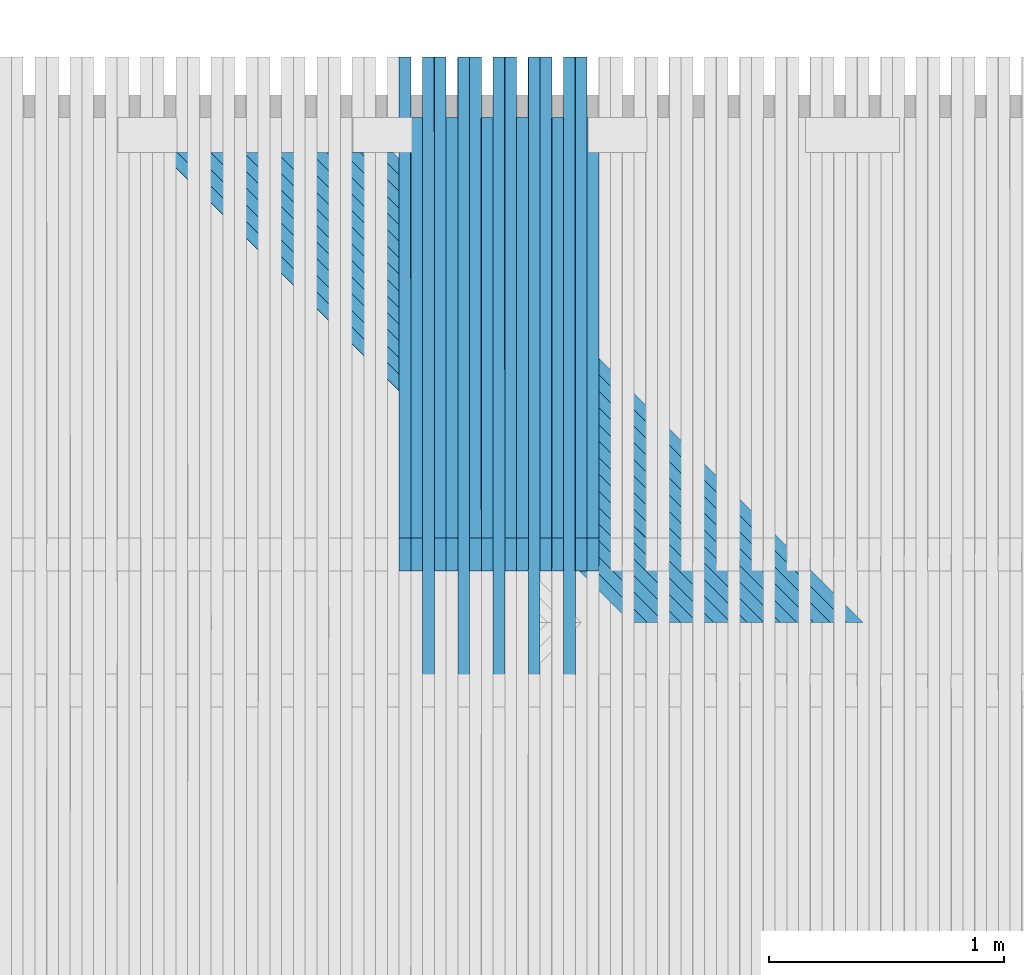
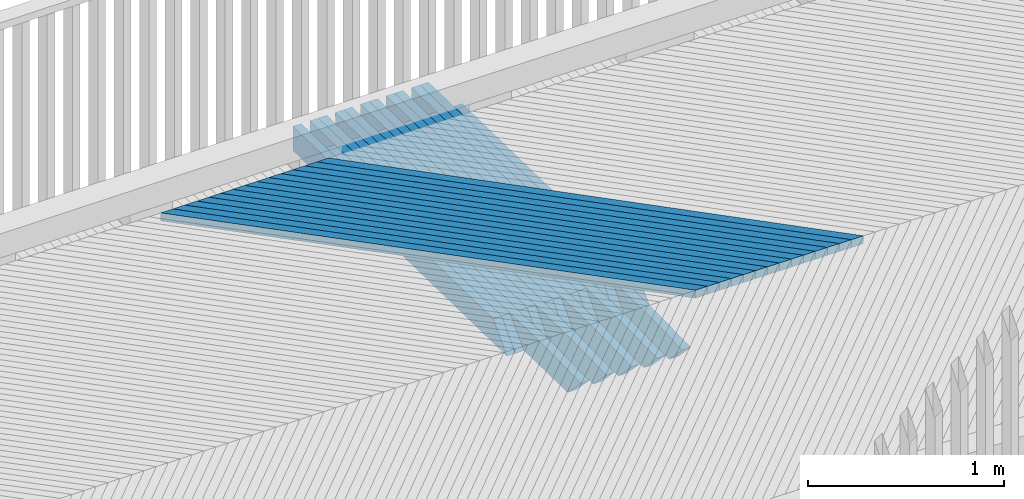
# One storey, part 34 of 47: 31 beams.
"""IFC2X3 building model written with IfcOpenShell, lengths in millimetres."""

from ifc_helpers import new_model, si_unit, frame, origin_with_axes, place, context, subcontext, project, spatial, faceted_brep, material, type_object, element, save


model = new_model("IFC2X3")

# Units and contexts
model_context = context("Model", 3, precision=1e-05, world=origin_with_axes())
body_context = subcontext(model_context, "Body", "Model", "MODEL_VIEW")
ifc_project = project(units=[si_unit("LENGTHUNIT", "METRE", prefix="MILLI"), si_unit("AREAUNIT", "SQUARE_METRE"), si_unit("VOLUMEUNIT", "CUBIC_METRE"), si_unit("MASSUNIT", "GRAM", prefix="KILO"), si_unit("TIMEUNIT", "SECOND"), si_unit("PLANEANGLEUNIT", "RADIAN"), si_unit("SOLIDANGLEUNIT", "STERADIAN"), si_unit("THERMODYNAMICTEMPERATUREUNIT", "DEGREE_CELSIUS"), si_unit("LUMINOUSINTENSITYUNIT", "LUMEN")], contexts=[model_context])

# Site, building, storey
site_placement = place(None, origin_with_axes())
site = spatial("IfcSite", under=ifc_project, at=site_placement, Name="Undefined", CompositionType="ELEMENT")
building_placement = place(site_placement, origin_with_axes())
building = spatial("IfcBuilding", under=site, at=building_placement, Name="Undefined", CompositionType="ELEMENT")
storey_placement = place(building_placement, origin_with_axes())
storey = spatial("IfcBuildingStorey", under=building, at=storey_placement, Name="Undefined", CompositionType="ELEMENT", Elevation=0.0)

# Beams
ifc_material = material(Name="TIMBER/Timber_Undefined")
beam_type_1 = type_object("IfcBeamType", Name="150*50", PredefinedType="NOTDEFINED")
beam_1_placement = place(storey_placement, frame((11900.5198427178, 64513.4953923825, 3080.51070701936), z_axis=(0.00648046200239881, 0.0199960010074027, 0.999779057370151), x_axis=(0.000129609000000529, -0.999800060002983, 0.0199955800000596)))
element("IfcBeam", 1, at=beam_1_placement, inside=storey, type_object=beam_type_1, material=ifc_material, Name="BEAM", ObjectType="150*50", context=body_context, shape_type="Brep", body=[
    faceted_brep([(6.18456397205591e-09, -24.9999999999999, -75.0000000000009), (-6.1918399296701e-09, -24.9999999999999, 74.9999999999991), (-6.19911588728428e-09, 25.0, 75.0), (6.18456397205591e-09, 24.9999999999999, -75.0), (1789.96936586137, 25.0, 75.0000000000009), (1928.42646506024, 25.0, -75.0), (1928.4264649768, -24.9999999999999, -75.0), (1789.96936577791, -24.9999999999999, 75.0)], [[[0, 1, 2, 3]], [[3, 2, 4, 5]], [[0, 3, 5, 6]], [[1, 0, 6, 7]], [[2, 1, 7, 4]], [[7, 6, 5, 4]]]),
])
beam_2_placement = place(storey_placement, frame((11850.582909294, 64771.4438078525, 3075.67314184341), z_axis=(0.00639810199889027, 0.0199960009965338, 0.999779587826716), x_axis=(0.000127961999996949, -0.999800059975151, 0.0199955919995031)))
element("IfcBeam", 2, at=beam_2_placement, inside=storey, type_object=beam_type_1, material=ifc_material, Name="BEAM", ObjectType="150*50", context=body_context, shape_type="Brep", body=[
    faceted_brep([(6.18456397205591e-09, -24.9999999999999, -75.0000000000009), (-6.1918399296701e-09, -24.9999999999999, 74.9999999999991), (-6.19911588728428e-09, 25.0, 75.0), (6.18456397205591e-09, 24.9999999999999, -75.0), (2047.96935975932, 25.0, 75.0), (2186.42645864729, 25.0, -75.0), (2186.42645915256, -25.0000000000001, -75.0), (2047.96936034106, -25.0000000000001, 75.0)], [[[0, 1, 2, 3]], [[3, 2, 4, 5]], [[0, 3, 5, 6]], [[1, 0, 6, 7]], [[2, 1, 7, 4]], [[7, 6, 5, 4]]]),
])
beam_3_placement = place(storey_placement, frame((11800.5445021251, 64771.443807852, 3075.99248001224), z_axis=(0.00623128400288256, 0.0199960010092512, 0.999780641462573), x_axis=(0.000124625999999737, -0.999800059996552, 0.019995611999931)))
element("IfcBeam", 3, at=beam_3_placement, inside=storey, type_object=beam_type_1, material=ifc_material, Name="BEAM", ObjectType="150*50", context=body_context, shape_type="Brep", body=[
    faceted_brep([(6.18456397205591e-09, -24.9999999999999, -75.0000000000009), (6.18456397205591e-09, 24.9999999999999, -75.0), (2633.00494983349, 25.0000000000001, -75.0000000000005), (2633.00495050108, -24.9999999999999, -75.0000000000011), (-6.1918399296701e-09, -24.9999999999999, 74.9999999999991), (-6.19911588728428e-09, 25.0, 75.0), (2408.42501428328, 25.0000000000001, 74.9999999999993), (2768.5924870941, 25.0, 60.5875375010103), (2768.59248707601, -25.0, 60.5875366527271), (2408.42499905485, -25.0, 74.9999999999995)], [[[0, 1, 2, 3]], [[0, 4, 5, 1]], [[2, 1, 5, 6, 7]], [[3, 2, 7, 8]], [[4, 0, 3, 8, 9]], [[5, 4, 9, 6]], [[6, 9, 8, 7]]]),
])
beam_4_placement = place(storey_placement, frame((11750.4928224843, 64513.4953923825, 3081.46414950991), z_axis=(0.00623128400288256, 0.0199960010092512, 0.999780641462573), x_axis=(0.000124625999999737, -0.999800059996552, 0.019995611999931)))
element("IfcBeam", 4, at=beam_4_placement, inside=storey, type_object=beam_type_1, material=ifc_material, Name="BEAM", ObjectType="150*50", context=body_context, shape_type="Brep", body=[
    faceted_brep([(6.18456397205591e-09, -24.9999999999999, -75.0000000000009), (-6.1918399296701e-09, -24.9999999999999, 74.9999999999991), (-6.19911588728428e-09, 25.0, 75.0), (6.18456397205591e-09, 24.9999999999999, -75.0), (1789.96936586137, 25.0, 75.0000000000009), (1928.42646506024, 25.0, -75.0), (1928.4264649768, -24.9999999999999, -75.0), (1789.96936577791, -24.9999999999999, 75.0)], [[[0, 1, 2, 3]], [[3, 2, 4, 5]], [[0, 3, 5, 6]], [[1, 0, 6, 7]], [[2, 1, 7, 4]], [[7, 6, 5, 4]]]),
])
beam_5_placement = place(storey_placement, frame((11700.5570962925, 64771.4438078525, 3076.61413855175), z_axis=(0.00614892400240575, 0.0199960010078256, 0.999781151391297), x_axis=(0.00012297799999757, -0.999800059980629, 0.0199956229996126)))
element("IfcBeam", 5, at=beam_5_placement, inside=storey, type_object=beam_type_1, material=ifc_material, Name="BEAM", ObjectType="150*50", context=body_context, shape_type="Brep", body=[
    faceted_brep([(6.18456397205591e-09, -24.9999999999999, -75.0000000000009), (-6.1918399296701e-09, -24.9999999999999, 74.9999999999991), (-6.19911588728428e-09, 25.0, 75.0), (6.18456397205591e-09, 24.9999999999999, -75.0), (2047.96935975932, 25.0, 75.0), (2186.42645864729, 25.0, -75.0), (2186.42645915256, -25.0000000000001, -75.0), (2047.96936034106, -25.0000000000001, 75.0)], [[[0, 1, 2, 3]], [[3, 2, 4, 5]], [[0, 3, 5, 6]], [[1, 0, 6, 7]], [[2, 1, 7, 4]], [[7, 6, 5, 4]]]),
])
beam_6_placement = place(storey_placement, frame((11650.5186110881, 64771.443807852, 3076.92100548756), z_axis=(0.005982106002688, 0.0199960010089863, 0.999782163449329), x_axis=(0.00011964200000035, -0.999800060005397, 0.0199956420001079)))
element("IfcBeam", 6, at=beam_6_placement, inside=storey, type_object=beam_type_1, material=ifc_material, Name="BEAM", ObjectType="150*50", context=body_context, shape_type="Brep", body=[
    faceted_brep([(6.18456397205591e-09, -24.9999999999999, -75.0000000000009), (6.18456397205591e-09, 24.9999999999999, -75.0), (2633.00494983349, 25.0000000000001, -75.0000000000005), (2633.00495050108, -24.9999999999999, -75.0000000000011), (-6.1918399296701e-09, -24.9999999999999, 74.9999999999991), (-6.19911588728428e-09, 25.0, 75.0), (2408.42506497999, 24.9999999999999, 75.0), (2768.5924870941, 25.0, 60.5875375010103), (2768.59248707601, -25.0, 60.5875366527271), (2408.4250638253, -25.0, 74.9999999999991)], [[[0, 1, 2, 3]], [[0, 4, 5, 1]], [[2, 1, 5, 6, 7]], [[3, 2, 7, 8]], [[4, 0, 3, 8, 9]], [[5, 4, 9, 6]], [[8, 7, 6, 9]]]),
])
beam_7_placement = place(storey_placement, frame((11600.4655692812, 64513.4953923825, 3082.38020028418), z_axis=(0.005982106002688, 0.0199960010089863, 0.999782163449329), x_axis=(0.00011964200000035, -0.999800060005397, 0.0199956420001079)))
element("IfcBeam", 7, at=beam_7_placement, inside=storey, type_object=beam_type_1, material=ifc_material, Name="BEAM", ObjectType="150*50", context=body_context, shape_type="Brep", body=[
    faceted_brep([(6.18456397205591e-09, -24.9999999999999, -75.0000000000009), (-6.1918399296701e-09, -24.9999999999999, 74.9999999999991), (-6.19911588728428e-09, 25.0, 75.0), (6.18456397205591e-09, 24.9999999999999, -75.0), (1789.96936586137, 25.0, 75.0000000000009), (1928.42646506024, 25.0, -75.0), (1928.4264649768, -24.9999999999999, -75.0), (1789.96936577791, -24.9999999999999, 75.0)], [[[0, 1, 2, 3]], [[3, 2, 4, 5]], [[0, 3, 5, 6]], [[1, 0, 6, 7]], [[2, 1, 7, 4]], [[7, 6, 5, 4]]]),
])
beam_8_placement = place(storey_placement, frame((11550.5310534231, 64771.4438078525, 3077.51774384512), z_axis=(0.00589974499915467, 0.0199960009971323, 0.999782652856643), x_axis=(0.000117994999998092, -0.999800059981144, 0.0199956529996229)))
element("IfcBeam", 8, at=beam_8_placement, inside=storey, type_object=beam_type_1, material=ifc_material, Name="BEAM", ObjectType="150*50", context=body_context, shape_type="Brep", body=[
    faceted_brep([(6.18456397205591e-09, -24.9999999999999, -75.0000000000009), (-6.1918399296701e-09, -24.9999999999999, 74.9999999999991), (-6.19911588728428e-09, 25.0, 75.0), (6.18456397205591e-09, 24.9999999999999, -75.0), (2047.96935975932, 25.0, 75.0), (2186.42645864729, 25.0, -75.0), (2186.42645915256, -25.0000000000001, -75.0), (2047.96936034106, -25.0000000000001, 75.0)], [[[0, 1, 2, 3]], [[3, 2, 4, 5]], [[0, 3, 5, 6]], [[1, 0, 6, 7]], [[2, 1, 7, 4]], [[7, 6, 5, 4]]]),
])
beam_9_placement = place(storey_placement, frame((11500.4924932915, 64771.443807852, 3077.81213952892), z_axis=(0.00573292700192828, 0.0199960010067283, 0.999783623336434), x_axis=(0.000114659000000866, -0.999800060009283, 0.0199956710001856)))
element("IfcBeam", 9, at=beam_9_placement, inside=storey, type_object=beam_type_1, material=ifc_material, Name="BEAM", ObjectType="150*50", context=body_context, shape_type="Brep", body=[
    faceted_brep([(6.18456397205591e-09, -24.9999999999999, -75.0000000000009), (6.18456397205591e-09, 24.9999999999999, -75.0), (2633.00494983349, 25.0000000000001, -75.0000000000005), (2633.00495050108, -24.9999999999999, -75.0000000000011), (-6.1918399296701e-09, -24.9999999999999, 74.9999999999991), (-6.19911588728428e-09, 25.0, 75.0), (2408.42506497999, 24.9999999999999, 75.0), (2768.5924870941, 25.0, 60.5875375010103), (2768.59248707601, -25.0, 60.5875366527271), (2408.4250638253, -25.0, 74.9999999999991)], [[[0, 1, 2, 3]], [[0, 4, 5, 1]], [[2, 1, 5, 6, 7]], [[3, 2, 7, 8]], [[4, 0, 3, 8, 9]], [[5, 4, 9, 6]], [[8, 7, 6, 9]]]),
])
beam_10_placement = place(storey_placement, frame((11450.4380924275, 64513.4953923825, 3083.25885928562), z_axis=(0.00573292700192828, 0.0199960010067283, 0.999783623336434), x_axis=(0.000114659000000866, -0.999800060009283, 0.0199956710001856)))
element("IfcBeam", 10, at=beam_10_placement, inside=storey, type_object=beam_type_1, material=ifc_material, Name="BEAM", ObjectType="150*50", context=body_context, shape_type="Brep", body=[
    faceted_brep([(6.18456397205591e-09, -24.9999999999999, -75.0000000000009), (-6.1918399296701e-09, -24.9999999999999, 74.9999999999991), (-6.19911588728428e-09, 25.0, 75.0), (6.18456397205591e-09, 24.9999999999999, -75.0), (1789.96936586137, 25.0, 75.0000000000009), (1928.42646506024, 25.0, -75.0), (1928.4264649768, -24.9999999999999, -75.0), (1789.96936577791, -24.9999999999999, 75.0)], [[[0, 1, 2, 3]], [[3, 2, 4, 5]], [[0, 3, 5, 6]], [[1, 0, 6, 7]], [[2, 1, 7, 4]], [[7, 6, 5, 4]]]),
])
beam_11_placement = place(storey_placement, frame((11400.5047900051, 64771.4438078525, 3078.38395766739), z_axis=(0.00565056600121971, 0.0199960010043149, 0.999784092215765), x_axis=(0.000113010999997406, -0.999800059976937, 0.0199956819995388)))
element("IfcBeam", 11, at=beam_11_placement, inside=storey, type_object=beam_type_1, material=ifc_material, Name="BEAM", ObjectType="150*50", context=body_context, shape_type="Brep", body=[
    faceted_brep([(6.18456397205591e-09, -24.9999999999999, -75.0000000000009), (-6.1918399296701e-09, -24.9999999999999, 74.9999999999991), (-6.19911588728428e-09, 25.0, 75.0), (6.18456397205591e-09, 24.9999999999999, -75.0), (2047.96935975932, 25.0, 75.0), (2186.42645864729, 25.0, -75.0), (2186.42645915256, -25.0000000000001, -75.0), (2047.96936034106, -25.0000000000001, 75.0)], [[[0, 1, 2, 3]], [[3, 2, 4, 5]], [[0, 3, 5, 6]], [[1, 0, 6, 7]], [[2, 1, 7, 4]], [[7, 6, 5, 4]]]),
])
beam_12_placement = place(storey_placement, frame((11350.4661580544, 64771.443807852, 3078.66588208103), z_axis=(0.00548374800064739, 0.0199960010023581, 0.99978502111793), x_axis=(0.000109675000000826, -0.999800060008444, 0.019995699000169)))
element("IfcBeam", 12, at=beam_12_placement, inside=storey, type_object=beam_type_1, material=ifc_material, Name="BEAM", ObjectType="150*50", context=body_context, shape_type="Brep", body=[
    faceted_brep([(6.18456397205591e-09, -24.9999999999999, -75.0000000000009), (6.18456397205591e-09, 24.9999999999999, -75.0), (2633.00494983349, 25.0000000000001, -75.0000000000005), (2633.00495050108, -24.9999999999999, -75.0000000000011), (-6.1918399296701e-09, -24.9999999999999, 74.9999999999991), (-6.19911588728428e-09, 25.0, 75.0), (2408.42506497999, 24.9999999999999, 75.0), (2768.5924870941, 25.0, 60.5875375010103), (2768.59248707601, -25.0, 60.5875366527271), (2408.4250638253, -25.0, 74.9999999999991)], [[[0, 1, 2, 3]], [[0, 4, 5, 1]], [[2, 1, 5, 6, 7]], [[3, 2, 7, 8]], [[4, 0, 3, 8, 9]], [[5, 4, 9, 6]], [[8, 7, 6, 9]]]),
])
beam_13_placement = place(storey_placement, frame((11300.4104012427, 64513.4953923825, 3084.10012645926), z_axis=(0.00548374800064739, 0.0199960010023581, 0.99978502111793), x_axis=(0.000109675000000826, -0.999800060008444, 0.019995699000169)))
element("IfcBeam", 13, at=beam_13_placement, inside=storey, type_object=beam_type_1, material=ifc_material, Name="BEAM", ObjectType="150*50", context=body_context, shape_type="Brep", body=[
    faceted_brep([(6.18456397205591e-09, -24.9999999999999, -75.0000000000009), (-6.1918399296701e-09, -24.9999999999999, 74.9999999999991), (-6.19911588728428e-09, 25.0, 75.0), (6.18456397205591e-09, 24.9999999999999, -75.0), (1789.96936586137, 25.0, 75.0000000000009), (1928.42646506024, 25.0, -75.0), (1928.4264649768, -24.9999999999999, -75.0), (1789.96936577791, -24.9999999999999, 75.0)], [[[0, 1, 2, 3]], [[3, 2, 4, 5]], [[0, 3, 5, 6]], [[1, 0, 6, 7]], [[2, 1, 7, 4]], [[7, 6, 5, 4]]]),
])
beam_14_placement = place(storey_placement, frame((11250.4783153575, 64771.4438078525, 3079.21277996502), z_axis=(0.00540138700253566, 0.019996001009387, 0.999785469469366), x_axis=(0.000108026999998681, -0.999800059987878, 0.0199957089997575)))
element("IfcBeam", 14, at=beam_14_placement, inside=storey, type_object=beam_type_1, material=ifc_material, Name="BEAM", ObjectType="150*50", context=body_context, shape_type="Brep", body=[
    faceted_brep([(6.18456397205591e-09, -24.9999999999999, -75.0000000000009), (-6.1918399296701e-09, -24.9999999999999, 74.9999999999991), (-6.19911588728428e-09, 25.0, 75.0), (6.18456397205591e-09, 24.9999999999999, -75.0), (2047.96935975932, 25.0, 75.0), (2186.42645864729, 25.0, -75.0), (2186.42645915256, -25.0000000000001, -75.0), (2047.96936034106, -25.0000000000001, 75.0)], [[[0, 1, 2, 3]], [[3, 2, 4, 5]], [[0, 3, 5, 6]], [[1, 0, 6, 7]], [[2, 1, 7, 4]], [[7, 6, 5, 4]]]),
])
beam_15_placement = place(storey_placement, frame((11200.4396146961, 64771.443807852, 3079.48223309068), z_axis=(0.00523456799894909, 0.0199960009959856, 0.999786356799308), x_axis=(0.000104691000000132, -0.999800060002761, 0.0199957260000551)))
element("IfcBeam", 15, at=beam_15_placement, inside=storey, type_object=beam_type_1, material=ifc_material, Name="BEAM", ObjectType="150*50", context=body_context, shape_type="Brep", body=[
    faceted_brep([(6.18456397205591e-09, -24.9999999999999, -75.0000000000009), (6.18456397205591e-09, 24.9999999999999, -75.0), (2633.00494983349, 25.0000000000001, -75.0000000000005), (2633.00495050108, -24.9999999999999, -75.0000000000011), (-6.1918399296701e-09, -24.9999999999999, 74.9999999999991), (-6.19911588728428e-09, 25.0, 75.0), (2408.42501428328, 25.0000000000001, 74.9999999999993), (2768.5924870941, 25.0, 60.5875375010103), (2768.59248707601, -25.0, 60.5875366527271), (2408.4250638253, -25.0, 74.9999999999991)], [[[0, 1, 2, 3]], [[0, 4, 5, 1]], [[2, 1, 5, 6, 7]], [[3, 2, 7, 8]], [[4, 0, 3, 8, 9]], [[5, 4, 9, 6]], [[8, 7, 6, 9]]]),
])
beam_16_placement = place(storey_placement, frame((11150.382505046, 64513.4953923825, 3084.90400175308), z_axis=(0.00523456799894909, 0.0199960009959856, 0.999786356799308), x_axis=(0.000104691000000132, -0.999800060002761, 0.0199957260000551)))
element("IfcBeam", 16, at=beam_16_placement, inside=storey, type_object=beam_type_1, material=ifc_material, Name="BEAM", ObjectType="150*50", context=body_context, shape_type="Brep", body=[
    faceted_brep([(6.18456397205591e-09, -24.9999999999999, -75.0000000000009), (-6.1918399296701e-09, -24.9999999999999, 74.9999999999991), (-6.19911588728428e-09, 25.0, 75.0), (6.18456397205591e-09, 24.9999999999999, -75.0), (1789.96936586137, 25.0, 75.0000000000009), (1928.42646506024, 25.0, -75.0), (1928.4264649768, -24.9999999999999, -75.0), (1789.96936577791, -24.9999999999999, 75.0)], [[[0, 1, 2, 3]], [[3, 2, 4, 5]], [[0, 3, 5, 6]], [[1, 0, 6, 7]], [[2, 1, 7, 4]], [[7, 6, 5, 4]]]),
])
beam_17_placement = place(storey_placement, frame((11100.4516387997, 64771.4438078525, 3080.00421068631), z_axis=(0.00515220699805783, 0.019996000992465, 0.999786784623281), x_axis=(0.000103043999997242, -0.99980005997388, 0.0199957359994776)))
element("IfcBeam", 17, at=beam_17_placement, inside=storey, type_object=beam_type_1, material=ifc_material, Name="BEAM", ObjectType="150*50", context=body_context, shape_type="Brep", body=[
    faceted_brep([(6.18456397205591e-09, -24.9999999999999, -75.0000000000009), (-6.1918399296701e-09, -24.9999999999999, 74.9999999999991), (-6.19911588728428e-09, 25.0, 75.0), (6.18456397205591e-09, 24.9999999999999, -75.0), (2047.96935975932, 25.0, 75.0), (2186.42645864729, 25.0, -75.0), (2186.42645915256, -25.0000000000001, -75.0), (2047.96936034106, -25.0000000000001, 75.0)], [[[0, 1, 2, 3]], [[3, 2, 4, 5]], [[0, 3, 5, 6]], [[1, 0, 6, 7]], [[2, 1, 7, 4]], [[7, 6, 5, 4]]]),
])
beam_type_2 = type_object("IfcBeamType", Name="50*50", PredefinedType="NOTDEFINED")
for number, where, z_axis, x_axis, name in (
    (18, (13015.7206567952, 62365.4998996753, 3215.23061871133), (0.706982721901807, 0.706981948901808, -0.0187604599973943), (-0.707200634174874, 0.706948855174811, -0.00951731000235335), "BEAM"),
    (19, (12944.9988427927, 62365.4998996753, 3215.81561504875), (0.706984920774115, 0.706981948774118, -0.0186774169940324), (-0.707199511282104, 0.706948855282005, -0.0096003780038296), "BEAM"),
    (20, (12874.2769605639, 62365.4998996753, 3216.39230435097), (0.70698710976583, 0.706981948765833, -0.0185943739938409), (-0.707198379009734, 0.706948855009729, -0.00968344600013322), "BEAM"),
    (21, (12803.5550110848, 62365.4998996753, 3216.96068661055), (0.706989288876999, 0.706981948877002, -0.0185113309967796), (-0.707197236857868, 0.706948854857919, -0.00976651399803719), "BEAM"),
    (22, (12732.832995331, 62365.4998996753, 3217.52076181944), (0.706991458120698, 0.706981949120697, -0.0184282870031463), (-0.707196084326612, 0.706948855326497, -0.00984958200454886), "BEAM"),
    (23, (12662.1109142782, 62365.4998996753, 3218.07252996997), (0.706993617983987, 0.706981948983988, -0.0183452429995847), (-0.707194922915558, 0.706948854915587, -0.00993264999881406), "BEAM"),
    (24, (12591.3887689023, 62365.4998996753, 3218.61599105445), (0.706995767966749, 0.706981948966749, -0.0182621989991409), (-0.707193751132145, 0.706948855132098, -0.0100157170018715), "BEAM"),
    (25, (12520.666560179, 62365.4998996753, 3219.15114506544), (0.706997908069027, 0.706981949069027, -0.0181791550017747), (-0.707192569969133, 0.706948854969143, -0.0100987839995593), "BEAM"),
    (26, (12449.944289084, 62365.4998996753, 3219.67799199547), (0.707000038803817, 0.706981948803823, -0.0180961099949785), (-0.707191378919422, 0.706948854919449, -0.0101818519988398), "BEAM"),
    (27, (12379.2219565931, 62365.4998996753, 3220.19653183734), (0.70700215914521, 0.706981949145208, -0.0180130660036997), (-0.707190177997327, 0.706948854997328, -0.0102649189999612), "BEAM"),
    (28, (12308.499563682, 62365.4998996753, 3220.70676458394), (0.707004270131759, 0.706981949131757, -0.0179300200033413), (-0.707188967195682, 0.706948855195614, -0.0103479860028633), "BEAM"),
    (29, (12237.7771113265, 62365.4998996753, 3221.20869022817), (0.707006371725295, 0.706981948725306, -0.0178469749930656), (-0.707187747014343, 0.706948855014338, -0.0104310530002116), "BEAM"),
    (30, (12167.0546005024, 62365.4998996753, 3221.70230876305), (0.707008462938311, 0.706981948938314, -0.0177639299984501), (-0.70718651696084, 0.706948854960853, -0.0105141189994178), "BEAM"),
    (31, (12096.3320321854, 62365.4998996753, 3222.18762018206), (0.707010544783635, 0.706981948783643, -0.017680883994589), (-0.707185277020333, 0.706948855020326, -0.0105971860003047), "BEAM"),
):
    element("IfcBeam", number, at=place(storey_placement, frame(where, z_axis=z_axis, x_axis=x_axis)), inside=storey, type_object=beam_type_2, material=ifc_material, Name=name, ObjectType="50*50", context=body_context, shape_type="Brep", body=[
        faceted_brep([(23.5869248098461, 25.0, -25.0), (-26.4154158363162, 25.0, 25.0), (2802.92643296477, 25.0000000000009, 25.0), (2852.92877373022, 25.0000000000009, -25.0), (-25.0011704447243, -25.0, 24.9999999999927), (2804.34067830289, -24.9999999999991, 25.0), (25.0011701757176, -25.0, -24.9999999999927), (2854.34301907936, -24.9999999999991, -25.0)], [[[0, 1, 2, 3]], [[1, 4, 5, 2]], [[4, 6, 7, 5]], [[6, 0, 3, 7]], [[5, 7, 3, 2]], [[6, 4, 1, 0]]]),
    ])

save(model, "model.ifc")
